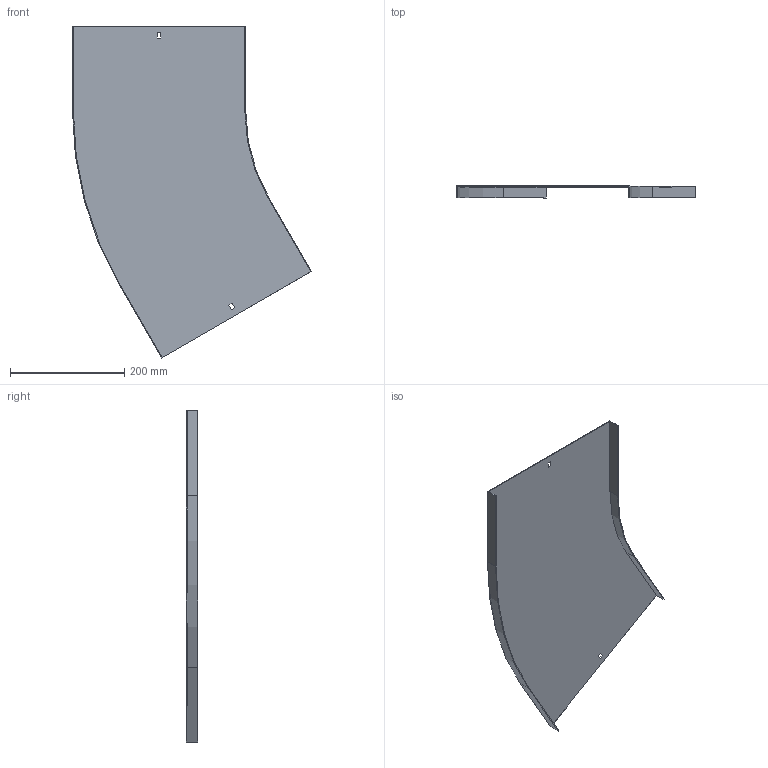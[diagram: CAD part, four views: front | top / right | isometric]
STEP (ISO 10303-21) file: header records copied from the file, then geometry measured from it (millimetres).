
FILE_DESCRIPTION (( 'STEP AP214' ), '1' );
FILE_NAME ('A2_12N3R300.step', '2025-02-21T10:48:51', ( '' ), ( '' ), 'SwSTEP 2.0', 'SolidWorks 2023', '' );
FILE_SCHEMA (( 'AUTOMOTIVE_DESIGN' ));
Length unit declared in the file: millimetre
Products named in the file (1): A2_12N3R300
Bounding box: 417.99 x 20 x 580.65 mm (x, y, z)
Volume: 272990.4 mm3; surface area: 366707.1 mm2
Topology: 1 solids, 1 shells, 26 faces, 72 edges, 48 vertices
Faces by surface type: plane 22, cylinder 4
Entity records: 855 total; most frequent: CARTESIAN_POINT 147, ORIENTED_EDGE 144, DIRECTION 134, EDGE_CURVE 72, LINE 64, VECTOR 64, VERTEX_POINT 48, AXIS2_PLACEMENT_3D 35
